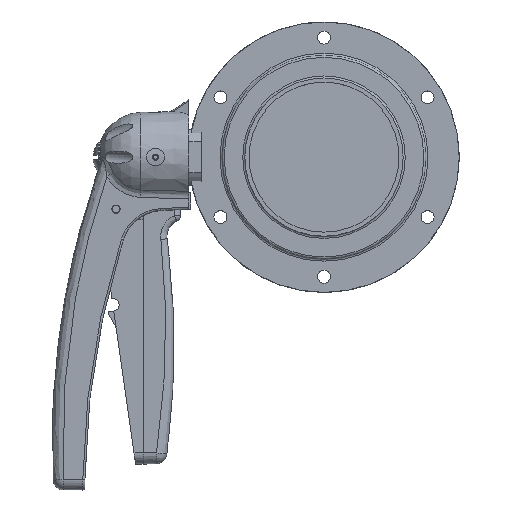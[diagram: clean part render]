
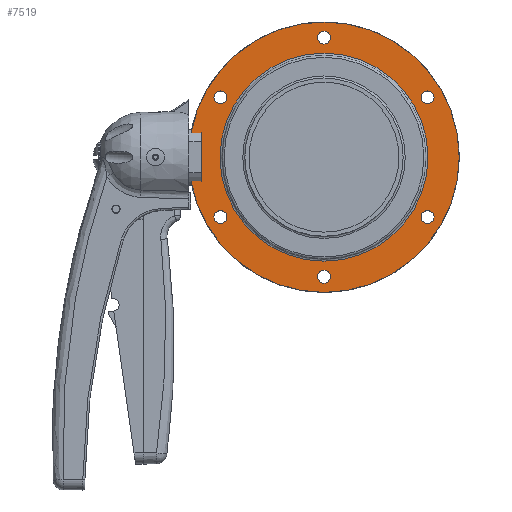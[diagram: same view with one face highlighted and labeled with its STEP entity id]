
A CAD part, top view. The second image highlights one B-rep face of the part: STEP entity #7519.
In plain terms, the highlighted planar face has unit normal (0, 0, 1).
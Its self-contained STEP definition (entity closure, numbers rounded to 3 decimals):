
#562=FACE_BOUND('',#1456,.T.);
#563=FACE_BOUND('',#1457,.T.);
#564=FACE_BOUND('',#1458,.T.);
#565=FACE_BOUND('',#1459,.T.);
#566=FACE_BOUND('',#1460,.T.);
#567=FACE_BOUND('',#1461,.T.);
#568=FACE_BOUND('',#1462,.T.);
#606=PLANE('',#8033);
#1030=FACE_OUTER_BOUND('',#1455,.T.);
#1455=EDGE_LOOP('',(#5190,#5191));
#1456=EDGE_LOOP('',(#5192,#5193));
#1457=EDGE_LOOP('',(#5194,#5195));
#1458=EDGE_LOOP('',(#5196,#5197));
#1459=EDGE_LOOP('',(#5198,#5199));
#1460=EDGE_LOOP('',(#5200,#5201));
#1461=EDGE_LOOP('',(#5202,#5203));
#1462=EDGE_LOOP('',(#5204,#5205));
#2985=CIRCLE('',#8005,3.1);
#2986=CIRCLE('',#8006,3.1);
#2988=CIRCLE('',#8009,3.1);
#2989=CIRCLE('',#8010,3.1);
#2991=CIRCLE('',#8013,3.1);
#2992=CIRCLE('',#8014,3.1);
#2994=CIRCLE('',#8017,3.1);
#2995=CIRCLE('',#8018,3.1);
#2997=CIRCLE('',#8021,3.1);
#2998=CIRCLE('',#8022,3.1);
#3000=CIRCLE('',#8025,3.1);
#3001=CIRCLE('',#8026,3.1);
#3003=CIRCLE('',#8029,65.);
#3004=CIRCLE('',#8030,65.);
#3007=CIRCLE('',#8034,50.);
#3008=CIRCLE('',#8035,50.);
#3292=VERTEX_POINT('',#10627);
#3293=VERTEX_POINT('',#10628);
#3295=VERTEX_POINT('',#10635);
#3296=VERTEX_POINT('',#10636);
#3298=VERTEX_POINT('',#10643);
#3299=VERTEX_POINT('',#10644);
#3301=VERTEX_POINT('',#10651);
#3302=VERTEX_POINT('',#10652);
#3304=VERTEX_POINT('',#10659);
#3305=VERTEX_POINT('',#10660);
#3307=VERTEX_POINT('',#10667);
#3308=VERTEX_POINT('',#10668);
#3310=VERTEX_POINT('',#10675);
#3311=VERTEX_POINT('',#10676);
#3315=VERTEX_POINT('',#10704);
#3316=VERTEX_POINT('',#10705);
#4021=EDGE_CURVE('',#3292,#3293,#2985,.T.);
#4022=EDGE_CURVE('',#3293,#3292,#2986,.T.);
#4025=EDGE_CURVE('',#3295,#3296,#2988,.T.);
#4026=EDGE_CURVE('',#3296,#3295,#2989,.T.);
#4029=EDGE_CURVE('',#3298,#3299,#2991,.T.);
#4030=EDGE_CURVE('',#3299,#3298,#2992,.T.);
#4033=EDGE_CURVE('',#3301,#3302,#2994,.T.);
#4034=EDGE_CURVE('',#3302,#3301,#2995,.T.);
#4037=EDGE_CURVE('',#3304,#3305,#2997,.T.);
#4038=EDGE_CURVE('',#3305,#3304,#2998,.T.);
#4041=EDGE_CURVE('',#3307,#3308,#3000,.T.);
#4042=EDGE_CURVE('',#3308,#3307,#3001,.T.);
#4045=EDGE_CURVE('',#3310,#3311,#3003,.T.);
#4046=EDGE_CURVE('',#3311,#3310,#3004,.T.);
#4051=EDGE_CURVE('',#3315,#3316,#3007,.T.);
#4052=EDGE_CURVE('',#3316,#3315,#3008,.T.);
#5190=ORIENTED_EDGE('',*,*,#4045,.T.);
#5191=ORIENTED_EDGE('',*,*,#4046,.T.);
#5192=ORIENTED_EDGE('',*,*,#4021,.T.);
#5193=ORIENTED_EDGE('',*,*,#4022,.T.);
#5194=ORIENTED_EDGE('',*,*,#4025,.T.);
#5195=ORIENTED_EDGE('',*,*,#4026,.T.);
#5196=ORIENTED_EDGE('',*,*,#4029,.T.);
#5197=ORIENTED_EDGE('',*,*,#4030,.T.);
#5198=ORIENTED_EDGE('',*,*,#4033,.T.);
#5199=ORIENTED_EDGE('',*,*,#4034,.T.);
#5200=ORIENTED_EDGE('',*,*,#4037,.T.);
#5201=ORIENTED_EDGE('',*,*,#4038,.T.);
#5202=ORIENTED_EDGE('',*,*,#4041,.T.);
#5203=ORIENTED_EDGE('',*,*,#4042,.T.);
#5204=ORIENTED_EDGE('',*,*,#4051,.F.);
#5205=ORIENTED_EDGE('',*,*,#4052,.F.);
#7519=ADVANCED_FACE('',(#1030,#562,#563,#564,#565,#566,#567,#568),#606,
 .T.);
#8005=AXIS2_PLACEMENT_3D('',#10629,#8704,#8705);
#8006=AXIS2_PLACEMENT_3D('',#10630,#8706,#8707);
#8009=AXIS2_PLACEMENT_3D('',#10637,#8713,#8714);
#8010=AXIS2_PLACEMENT_3D('',#10638,#8715,#8716);
#8013=AXIS2_PLACEMENT_3D('',#10645,#8722,#8723);
#8014=AXIS2_PLACEMENT_3D('',#10646,#8724,#8725);
#8017=AXIS2_PLACEMENT_3D('',#10653,#8731,#8732);
#8018=AXIS2_PLACEMENT_3D('',#10654,#8733,#8734);
#8021=AXIS2_PLACEMENT_3D('',#10661,#8740,#8741);
#8022=AXIS2_PLACEMENT_3D('',#10662,#8742,#8743);
#8025=AXIS2_PLACEMENT_3D('',#10669,#8749,#8750);
#8026=AXIS2_PLACEMENT_3D('',#10670,#8751,#8752);
#8029=AXIS2_PLACEMENT_3D('',#10677,#8758,#8759);
#8030=AXIS2_PLACEMENT_3D('',#10678,#8760,#8761);
#8033=AXIS2_PLACEMENT_3D('',#10703,#8767,#8768);
#8034=AXIS2_PLACEMENT_3D('',#10706,#8769,#8770);
#8035=AXIS2_PLACEMENT_3D('',#10707,#8771,#8772);
#8704=DIRECTION('center_axis',(0.,0.,-1.));
#8705=DIRECTION('ref_axis',(0.5,-0.866,0.));
#8706=DIRECTION('center_axis',(0.,0.,-1.));
#8707=DIRECTION('ref_axis',(0.5,-0.866,0.));
#8713=DIRECTION('center_axis',(0.,0.,-1.));
#8714=DIRECTION('ref_axis',(-0.5,-0.866,0.));
#8715=DIRECTION('center_axis',(0.,0.,-1.));
#8716=DIRECTION('ref_axis',(-0.5,-0.866,0.));
#8722=DIRECTION('center_axis',(0.,0.,-1.));
#8723=DIRECTION('ref_axis',(-1.,0.,0.));
#8724=DIRECTION('center_axis',(0.,0.,-1.));
#8725=DIRECTION('ref_axis',(-1.,0.,0.));
#8731=DIRECTION('center_axis',(0.,0.,-1.));
#8732=DIRECTION('ref_axis',(-0.5,0.866,0.));
#8733=DIRECTION('center_axis',(0.,0.,-1.));
#8734=DIRECTION('ref_axis',(-0.5,0.866,0.));
#8740=DIRECTION('center_axis',(0.,0.,-1.));
#8741=DIRECTION('ref_axis',(0.5,0.866,0.));
#8742=DIRECTION('center_axis',(0.,0.,-1.));
#8743=DIRECTION('ref_axis',(0.5,0.866,0.));
#8749=DIRECTION('center_axis',(0.,0.,-1.));
#8750=DIRECTION('ref_axis',(1.,0.,0.));
#8751=DIRECTION('center_axis',(0.,0.,-1.));
#8752=DIRECTION('ref_axis',(1.,0.,0.));
#8758=DIRECTION('center_axis',(0.,0.,1.));
#8759=DIRECTION('ref_axis',(0.,-1.,0.));
#8760=DIRECTION('center_axis',(0.,0.,1.));
#8761=DIRECTION('ref_axis',(0.,-1.,0.));
#8767=DIRECTION('center_axis',(0.,0.,1.));
#8768=DIRECTION('ref_axis',(1.,0.,0.));
#8769=DIRECTION('center_axis',(0.,0.,1.));
#8770=DIRECTION('ref_axis',(0.,-1.,0.));
#8771=DIRECTION('center_axis',(0.,0.,1.));
#8772=DIRECTION('ref_axis',(0.,-1.,0.));
#10627=CARTESIAN_POINT('',(-48.246,26.065,12.));
#10628=CARTESIAN_POINT('',(-51.346,31.435,12.));
#10629=CARTESIAN_POINT('Origin',(-49.796,28.75,12.));
#10630=CARTESIAN_POINT('Origin',(-49.796,28.75,12.));
#10635=CARTESIAN_POINT('',(-1.55,54.815,12.));
#10636=CARTESIAN_POINT('',(1.55,60.185,12.));
#10637=CARTESIAN_POINT('Origin',(0.,57.5,12.));
#10638=CARTESIAN_POINT('Origin',(0.,57.5,12.));
#10643=CARTESIAN_POINT('',(46.696,28.75,12.));
#10644=CARTESIAN_POINT('',(52.896,28.75,12.));
#10645=CARTESIAN_POINT('Origin',(49.796,28.75,12.));
#10646=CARTESIAN_POINT('Origin',(49.796,28.75,12.));
#10651=CARTESIAN_POINT('',(48.246,-26.065,12.));
#10652=CARTESIAN_POINT('',(51.346,-31.435,12.));
#10653=CARTESIAN_POINT('Origin',(49.796,-28.75,12.));
#10654=CARTESIAN_POINT('Origin',(49.796,-28.75,12.));
#10659=CARTESIAN_POINT('',(1.55,-54.815,12.));
#10660=CARTESIAN_POINT('',(-1.55,-60.185,12.));
#10661=CARTESIAN_POINT('Origin',(0.,-57.5,12.));
#10662=CARTESIAN_POINT('Origin',(0.,-57.5,12.));
#10667=CARTESIAN_POINT('',(-46.696,-28.75,12.));
#10668=CARTESIAN_POINT('',(-52.896,-28.75,12.));
#10669=CARTESIAN_POINT('Origin',(-49.796,-28.75,12.));
#10670=CARTESIAN_POINT('Origin',(-49.796,-28.75,12.));
#10675=CARTESIAN_POINT('',(0.,-65.,12.));
#10676=CARTESIAN_POINT('',(0.,65.,12.));
#10677=CARTESIAN_POINT('Origin',(0.,0.,12.));
#10678=CARTESIAN_POINT('Origin',(0.,0.,12.));
#10703=CARTESIAN_POINT('Origin',(0.,-57.5,12.));
#10704=CARTESIAN_POINT('',(0.,-50.,12.));
#10705=CARTESIAN_POINT('',(-50.,0.,12.));
#10706=CARTESIAN_POINT('Origin',(0.,0.,12.));
#10707=CARTESIAN_POINT('Origin',(0.,0.,12.));
